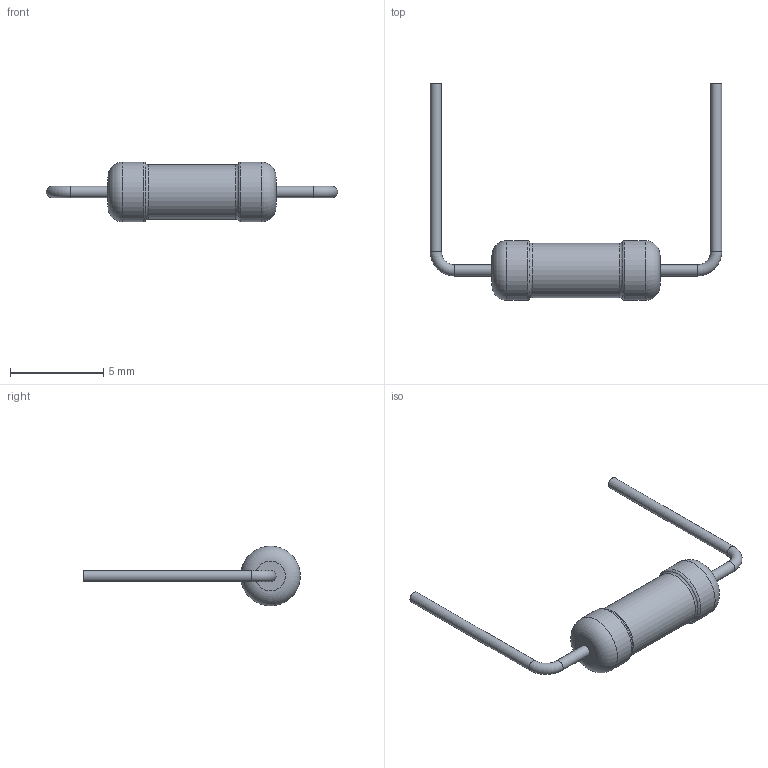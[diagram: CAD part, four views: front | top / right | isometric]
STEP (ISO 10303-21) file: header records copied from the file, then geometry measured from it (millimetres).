
FILE_DESCRIPTION(('STEP AP203'), '1');
FILE_NAME('ﾑ2-29ﾂ-0,25ﾀﾈ(1)', '', ('UNSPECIFIED'), ('UNSPECIFIED'), 'ASCON STEP Converter 1.6', 'ASCON Math Kernel', '');
FILE_SCHEMA(('CONFIG_CONTROL_DESIGN'));
Length unit declared in the file: millimetre
Bounding box: 15.6 x 11.6 x 3.2 mm (x, y, z)
Volume: 69.9 mm3; surface area: 142.8 mm2
Topology: 1 solids, 1 shells, 19 faces, 33 edges, 18 vertices
Faces by surface type: torus 8, cylinder 7, plane 4
Full cylindrical faces by diameter (mm): 0.6 x4, 2.9 x1, 3.2 x2
Entity records: 570 total; most frequent: DIRECTION 76, CARTESIAN_POINT 56, AXIS2_PLACEMENT_3D 38, EDGE_LOOP 36, ORIENTED_EDGE 36, FACE_OUTER_BOUND 30, COLOUR_RGB 20, FILL_AREA_STYLE_COLOUR 20
